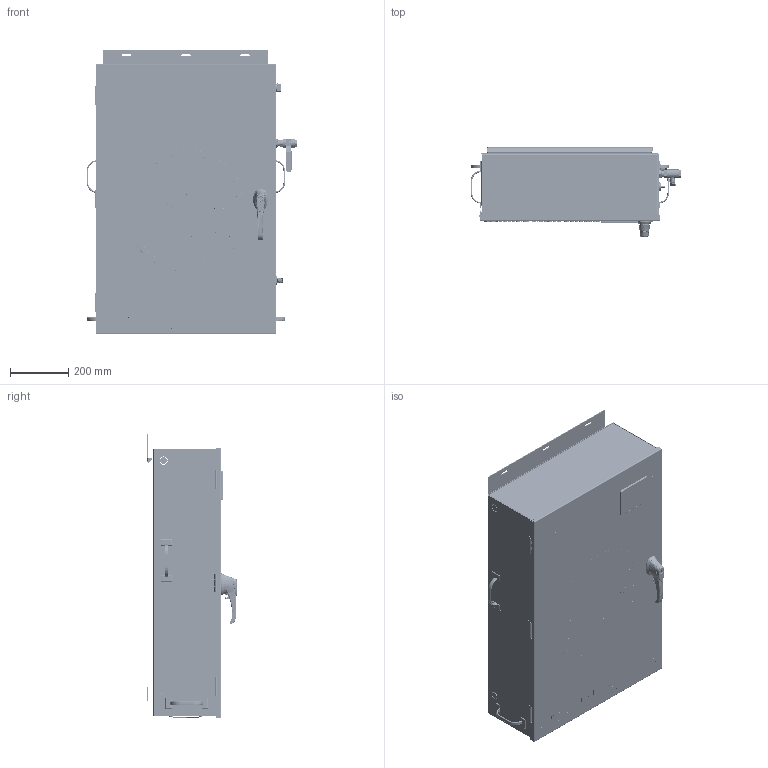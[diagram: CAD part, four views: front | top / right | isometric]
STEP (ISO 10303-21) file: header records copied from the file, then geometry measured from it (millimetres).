
FILE_DESCRIPTION(/* description */ (''),/* implementation_level */ '2;1');
FILE_NAME(/* name */ 'AG-950.stp',/* time_stamp */ '2023-08-14T15:36:01-05:00',/* author */ ('atroll'),/* organization */ (''),/* preprocessor_version */ 'ST-DEVELOPER v19.2',/* originating_system */ 'Autodesk Inventor 2023',/* authorisation */ '');
FILE_SCHEMA (('AUTOMOTIVE_DESIGN { 1 0 10303 214 3 1 1 }'));
Products named in the file (1): AG-950_Simplified
Bounding box: 721.55 x 305.65 x 974.45 mm (x, y, z)
Volume: 5923707.7 mm3; surface area: 5448118 mm2
Topology: 21 solids, 39 shells, 8916 faces, 24090 edges, 15480 vertices
Faces by surface type: plane 5731, cylinder 1583, bspline 986, cone 318, torus 205, sphere 93
Full cylindrical faces by diameter (mm): 0.434 x1, 0.61 x9, 1.219 x9, 1.4 x3, 1.5 x2, 1.8 x14, 2 x2, 2.157 x2, 2.286 x22, 2.5 x4, 2.8 x2, 3 x16, 3.175 x7, 3.2 x4, 3.302 x4, 3.5 x7, 3.7 x4, 3.8 x2, 4.1 x3, 4.2 x1, 4.3 x1, 4.318 x2, 4.496 x4, 4.826 x3, 4.978 x1, 5 x1, 5.156 x4, 5.6 x4, 6 x2, 6.096 x2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
Entity records: 345880 total; most frequent: CARTESIAN_POINT 117526, ORIENTED_EDGE 48172, DIRECTION 41506, EDGE_CURVE 24086, LINE 16810, VECTOR 16810, VERTEX_POINT 15496, AXIS2_PLACEMENT_3D 12348
